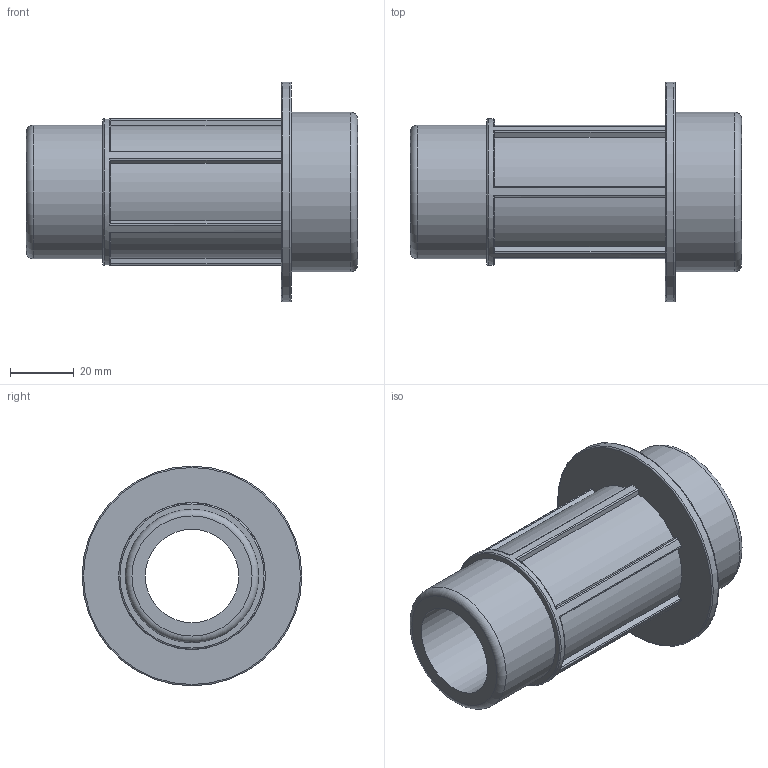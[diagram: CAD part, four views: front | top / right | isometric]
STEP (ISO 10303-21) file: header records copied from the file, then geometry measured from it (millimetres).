
FILE_DESCRIPTION(/* description */ ('PLASSON THREADED MALE ADAPTOR 50-1.1/4"'),/* implementation_level */ '2;1');
FILE_NAME(/* name */ 'C:\Dropbox\KIMPROJECTS-Inventor\99-16-3568-Processing\Silver+MF ISRAEL\078901\078901050013.ipt.stp',/* time_stamp */ '2018-04-09T13:02:00+03:00',/* author */ ('KIM'),/* organization */ (''),/* preprocessor_version */ 'ST-DEVELOPER v15.6',/* originating_system */ 'Autodesk Inventor 2015',/* authorisation */ '');
FILE_SCHEMA (('AUTOMOTIVE_DESIGN { 1 0 10303 214 3 1 1 }'));
Length unit declared in the file: millimetre
Products named in the file (1): 078901050013
Bounding box: 104 x 69 x 69 mm (x, y, z)
Volume: 95324.9 mm3; surface area: 31589.9 mm2
Topology: 1 solids, 1 shells, 57 faces, 151 edges, 99 vertices
Faces by surface type: cylinder 23, plane 23, torus 11
Full cylindrical faces by diameter (mm): 29.337 x1, 41.91 x1, 46.101 x1, 50 x1, 69 x1
Entity records: 1894 total; most frequent: CARTESIAN_POINT 488, DIRECTION 288, ORIENTED_EDGE 280, EDGE_CURVE 140, AXIS2_PLACEMENT_3D 114, VERTEX_POINT 98, EDGE_LOOP 72, LINE 60
